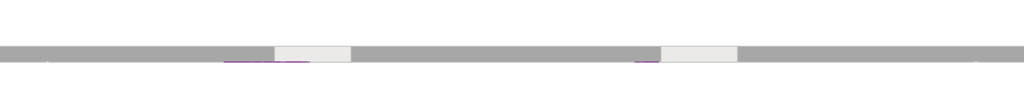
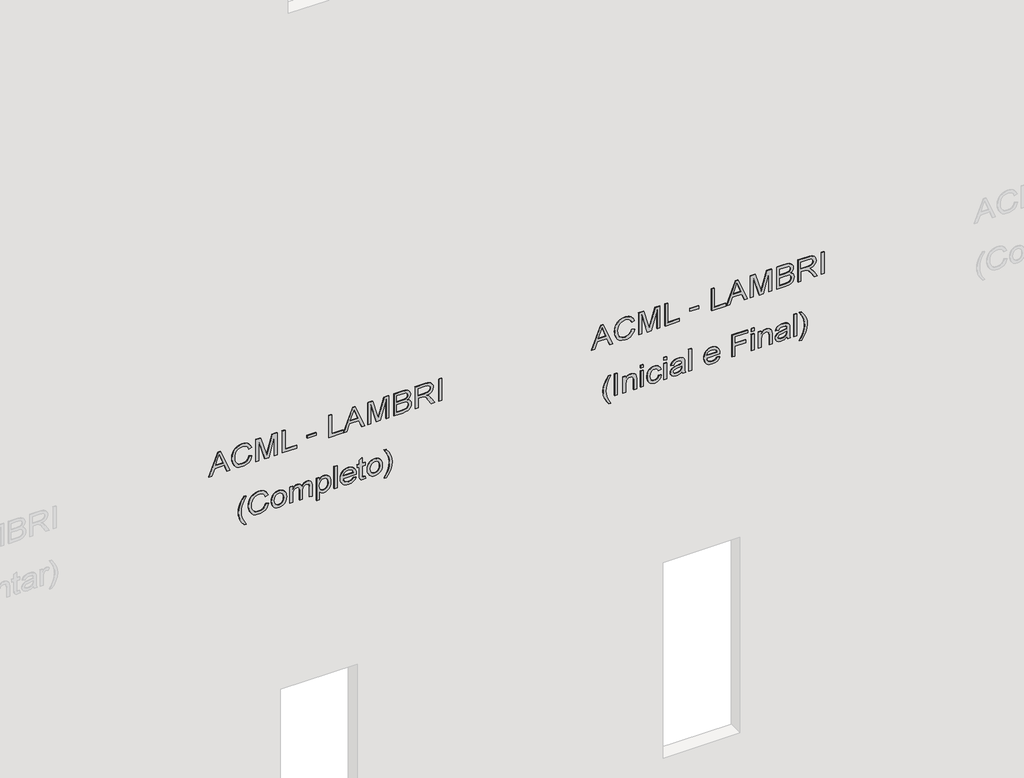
# One storey, part 4 of 11: 2 proxies.
"""IFC4 building model written with IfcOpenShell, lengths in millimetres."""

import ifcopenshell
import ifcopenshell.guid

model = None  # the IFC model being written
_history = None  # IfcOwnerHistory: only IFC2X3 demands one
_inside = {}  # id of a spatial element -> (the spatial element, [elements in it])
_under = {}  # id of a project, library or spatial element -> (it, [spatial elements below it])
_declared = {}  # id of a project -> (the project, [libraries it declares])
_typed = {}  # id of a type object -> (the type object, [elements of that type])
_made_of = {}  # id of a material, layer set ... -> (it, [elements and type objects made of it])


def new_model(schema):
    """Start an empty IFC model of exactly this schema.

    Asked for "IFC4X3", IfcOpenShell would pick the latest addendum, in which some entities
    have other attributes; the version numbers below select the first issue.
    IFC2X3 requires an IfcOwnerHistory on every rooted entity: one is made here for all.
    """
    global model, _history
    if schema == "IFC4X3":
        model = ifcopenshell.file(schema_version=(4, 3, 0, 0))
    else:
        model = ifcopenshell.file(schema=schema)
    _inside.clear()
    _under.clear()
    _declared.clear()
    _typed.clear()
    _made_of.clear()
    _history = None
    if model.schema == "IFC2X3":
        org = make("IfcOrganization", Name="unknown")
        user = make(
            "IfcPersonAndOrganization",
            ThePerson=make("IfcPerson", FamilyName="unknown"),
            TheOrganization=org,
        )
        app = make(
            "IfcApplication",
            ApplicationDeveloper=org,
            Version="unknown",
            ApplicationFullName="unknown",
            ApplicationIdentifier="unknown",
        )
        _history = make(
            "IfcOwnerHistory",
            OwningUser=user,
            OwningApplication=app,
            ChangeAction="ADDED",
            CreationDate=0,
        )
    return model


def make(cls, **values):
    """One entity of the class cls with the attributes given. An attribute that is None is left unset."""
    return model.create_entity(
        cls, **{name: value for name, value in values.items() if value is not None}
    )


def rooted(cls, **values):
    """An entity with a GlobalId (a new one), such as an element, a storey or a relation."""
    return make(cls, GlobalId=ifcopenshell.guid.new(), OwnerHistory=_history, **values)


def si_unit(unit_type, name, prefix=None):
    """IfcSIUnit, for example si_unit("LENGTHUNIT", "METRE", prefix="MILLI")."""
    return make("IfcSIUnit", UnitType=unit_type, Prefix=prefix, Name=name)


def assignment(units):
    """IfcUnitAssignment: the units of a project."""
    return None if units is None else make("IfcUnitAssignment", Units=units)


def point(xyz):
    """IfcCartesianPoint."""
    return None if xyz is None else make("IfcCartesianPoint", Coordinates=xyz)


def direction(xyz):
    """IfcDirection."""
    return None if xyz is None else make("IfcDirection", DirectionRatios=xyz)


def frame(location, z_axis=None, x_axis=None):
    """IfcAxis2Placement3D, a coordinate frame: its origin and axes. An axis left out is left unset."""
    return make(
        "IfcAxis2Placement3D",
        Location=point(location),
        Axis=direction(z_axis),
        RefDirection=direction(x_axis),
    )


def origin():
    """The frame at (0, 0, 0) with its axes left unset."""
    return frame((0.0, 0.0, 0.0))


def place(relative_to, where):
    """IfcLocalPlacement: puts the frame where relative to a parent placement (None: the world)."""
    return make(
        "IfcLocalPlacement", PlacementRelTo=relative_to, RelativePlacement=where
    )


def context(
    kind, dimensions, precision=None, world=None, true_north=None, identifier=None
):
    """IfcGeometricRepresentationContext, for example the 3D "Model" context."""
    return make(
        "IfcGeometricRepresentationContext",
        ContextIdentifier=identifier,
        ContextType=kind,
        CoordinateSpaceDimension=dimensions,
        Precision=precision,
        WorldCoordinateSystem=world,
        TrueNorth=true_north,
    )


def project(units=None, contexts=None):
    """IfcProject with its units and contexts."""
    return rooted(
        "IfcProject",
        Name="project",
        RepresentationContexts=contexts,
        UnitsInContext=assignment(units),
    )


def spatial(cls, under=None, at=None, **own):
    """A site, building, storey or space (cls), placed at a placement, below another one or the project."""
    s = rooted(cls, ObjectPlacement=at, **own)
    if under is not None:
        _under.setdefault(under.id(), (under, []))[1].append(s)
    return s


def polyline(points):
    """IfcPolyline through the points."""
    return make("IfcPolyline", Points=[point(p) for p in points])


def outline(outer, holes=None, kind="AREA"):
    """IfcArbitraryClosedProfileDef: a profile drawn as a closed curve; with holes, ...WithVoids."""
    if holes is None:
        return make("IfcArbitraryClosedProfileDef", ProfileType=kind, OuterCurve=outer)
    return make(
        "IfcArbitraryProfileDefWithVoids",
        ProfileType=kind,
        OuterCurve=outer,
        InnerCurves=holes,
    )


def extrude(swept, where, along, depth):
    """IfcExtrudedAreaSolid: the profile swept, set in the frame where, extruded along a direction by depth."""
    return make(
        "IfcExtrudedAreaSolid",
        SweptArea=swept,
        Position=where,
        ExtrudedDirection=direction(along),
        Depth=depth,
    )


def shape(context_of_items, identifier, shape_type, items):
    """IfcShapeRepresentation: the items that make up one representation, for example the "Body"."""
    return make(
        "IfcShapeRepresentation",
        ContextOfItems=context_of_items,
        RepresentationIdentifier=identifier,
        RepresentationType=shape_type,
        Items=items,
    )


def made_of(thing, what):
    """Note that an element or type object is made of a material, layer set ...; save() writes the relation."""
    if what is not None:
        _made_of.setdefault(what.id(), (what, []))[1].append(thing)
    return thing


def element(
    cls,
    number,
    at=None,
    inside=None,
    cuts=None,
    type_object=None,
    material=None,
    context=None,
    identifier="Body",
    shape_type=None,
    held_by="IfcProductDefinitionShape",
    body=None,
    shapes=None,
    **own,
):
    """One element of the class cls, such as IfcWall. Its Tag is "e" and its number.

    at: its placement. inside: the storey or other place that contains it. cuts: it is an
    opening in that element (IfcRelVoidsElement). A single representation is given by context,
    identifier, shape_type and body (its items); several are given by shapes. held_by: the class
    of the entity that holds the representations. save() writes the other relations.
    """
    e = rooted(cls, Tag="e%d" % number, ObjectPlacement=at, **own)
    if body is not None:
        shapes = [shape(context, identifier, shape_type, body)]
    if shapes is not None:
        e.Representation = make(held_by, Representations=shapes)
    if inside is not None:
        _inside.setdefault(inside.id(), (inside, []))[1].append(e)
    if cuts is not None:
        rooted(
            "IfcRelVoidsElement", RelatingBuildingElement=cuts, RelatedOpeningElement=e
        )
    if type_object is not None:
        _typed.setdefault(type_object.id(), (type_object, []))[1].append(e)
    return made_of(e, material)


def aggregate(whole, parts):
    """IfcRelAggregates: a whole, such as a stair, and the parts it consists of."""
    return rooted("IfcRelAggregates", RelatingObject=whole, RelatedObjects=parts)


def save(model, path):
    """Write the relations noted so far, then the file.

    IfcRelAggregates (storeys below a building ...), IfcRelContainedInSpatialStructure (elements
    in a storey), IfcRelDefinesByType, IfcRelAssociatesMaterial and IfcRelDeclares: one each for
    every whole, place, type object, material and project.
    """
    for whole, parts in _under.values():
        aggregate(whole, parts)
    for where, things in _inside.values():
        rooted(
            "IfcRelContainedInSpatialStructure",
            RelatedElements=things,
            RelatingStructure=where,
        )
    for kind, things in _typed.values():
        rooted("IfcRelDefinesByType", RelatedObjects=things, RelatingType=kind)
    for what, things in _made_of.values():
        rooted("IfcRelAssociatesMaterial", RelatedObjects=things, RelatingMaterial=what)
    for by, libraries in _declared.values():
        rooted("IfcRelDeclares", RelatingContext=by, RelatedDefinitions=libraries)
    model.write(path)


model = new_model("IFC4")

# Units and contexts
model_context = context("Model", 3, world=origin())
ifc_project = project(units=[si_unit("LENGTHUNIT", "METRE", prefix="MILLI")], contexts=[model_context])

# Site, building, storey
site = spatial("IfcSite", under=ifc_project)
building = spatial("IfcBuilding", under=site)
storey = spatial("IfcBuildingStorey", under=building, Name="01 - Marelli - Planta Baixa - Painéis Lambri", Elevation=0.0)

# Proxies
placement = place(None, origin())
element("IfcBuildingElementProxy", 1, Name="300mm Arial", ObjectType="300mm Arial", at=placement, inside=storey, context=model_context, shape_type="SweptSolid", body=[
    extrude(outline(polyline([(5965.9244535, 12333.0775803), (5965.9244535, 12372.8824122), (6060.1022443, 12407.316167), (6060.1022443, 12531.4395521), (5965.9244535, 12565.9468833), (5965.9244535, 12605.7517152), (6267.293384, 12485.4543027), (6267.293384, 12453.3749928), (5965.9244535, 12333.0775803)]), holes=[polyline([(6097.7733606, 12421.14853), (6178.3395176, 12450.652666), (6229.6222677, 12469.4146478), (6171.8647944, 12490.5310743), (6097.7733606, 12517.6807655), (6097.7733606, 12421.14853)])]), frame((0.0, 8778.3159498, 0.0), z_axis=(0.0, 1.0, 0.0), x_axis=(0.0, 0.0, 1.0)), (0.0, 0.0, 1.0), 10.0),
    extrude(outline(polyline([(6073.0516905, 12857.8980347), (6040.7884396, 12845.7119436), (6017.5750857, 12825.9290893), (6003.5587816, 12799.7266942), (5998.8866803, 12768.2819806), (6002.3171799, 12741.3070333), (6012.6086787, 12716.3002547), (6029.8347531, 12695.4413456), (6054.0689796, 12680.9100068), (6084.1617268, 12672.3843415), (6118.9633635, 12669.5424531), (6147.3822477, 12671.9428831), (6174.9550032, 12679.1441732), (6199.3455795, 12692.2683634), (6218.2179258, 12712.4374938), (6230.3028494, 12739.0169679), (6234.3311572, 12771.3721894), (6230.6983225, 12799.4415856), (6219.7998184, 12822.2870575), (6200.9550632, 12840.1293343), (6173.4834752, 12853.1891451), (6182.4597959, 12890.8602614), (6220.278065, 12874.2227982), (6235.6003501, 12862.4206839), (6248.5314022, 12848.2963146), (6258.7999084, 12832.1164046), (6266.1345557, 12814.1476684), (6272.0022735, 12772.8437174), (6267.4681279, 12734.9886601), (6253.8656912, 12700.4445407), (6231.526057, 12671.3174838), (6200.7803193, 12649.7136136), (6162.8332915, 12636.331906), (6118.8897871, 12631.8713368), (6077.2271512, 12635.8168712), (6038.3236302, 12647.6534744), (6005.2326447, 12667.0408556), (5981.0076153, 12693.6387238), (5966.1635768, 12728.339193), (5961.215564, 12772.034377), (5962.8503396, 12794.4567846), (5967.7546665, 12815.0765704), (5975.9285445, 12833.8937345), (5987.3719739, 12850.9082767), (6001.9286046, 12865.7845049), (6019.4420868, 12878.1867267), (6039.9124206, 12888.114942), (6063.3396059, 12895.569151), (6073.0516905, 12857.8980347)])), frame((0.0, 8778.3159498, 0.0), z_axis=(0.0, 1.0, 0.0), x_axis=(0.0, 0.0, 1.0)), (0.0, 0.0, 1.0), 10.0),
    extrude(outline(polyline([(5965.9244535, 12947.3669359), (5965.9244535, 12985.0380522), (6229.6222677, 12985.0380522), (5965.9244535, 13060.7481668), (5965.9244535, 13111.8101877), (6229.6222677, 13187.5203023), (5965.9244535, 13187.5203023), (5965.9244535, 13225.1914186), (6267.293384, 13225.1914186), (6267.293384, 13160.3706111), (6058.5571399, 13099.7436583), (6010.5117514, 13086.2791773), (6054.87832, 13073.8447658), (6267.293384, 13012.1877434), (6267.293384, 12947.3669359), (5965.9244535, 12947.3669359)])), frame((0.0, 8778.3159498, 0.0), z_axis=(0.0, 1.0, 0.0), x_axis=(0.0, 0.0, 1.0)), (0.0, 0.0, 1.0), 10.0),
    extrude(outline(polyline([(5965.9244535, 13291.1158722), (5965.9244535, 13479.4714537), (6003.5955698, 13479.4714537), (6003.5955698, 13328.7869885), (6267.293384, 13328.7869885), (6267.293384, 13291.1158722), (5965.9244535, 13291.1158722)])), frame((0.0, 8778.3159498, 0.0), z_axis=(0.0, 1.0, 0.0), x_axis=(0.0, 0.0, 1.0)), (0.0, 0.0, 1.0), 10.0),
    extrude(outline(polyline([(13733.7514888, 8778.3159498), (13616.0292503, 8778.3159498), (13616.0292503, 8788.3159498), (13733.7514888, 8788.3159498), (13733.7514888, 8778.3159498)])), frame((0.0, 0.0, 6055.3933548), z_axis=(0.0, 0.0, 1.0), x_axis=(1.0, 0.0, 0.0)), (0.0, 0.0, 1.0), 37.6711163),
    extrude(outline(polyline([(5965.9244535, 13898.5626226), (5965.9244535, 14086.9182041), (6003.5955698, 14086.9182041), (6003.5955698, 13936.2337389), (6267.293384, 13936.2337389), (6267.293384, 13898.5626226), (5965.9244535, 13898.5626226)])), frame((0.0, 8778.3159498, 0.0), z_axis=(0.0, 1.0, 0.0), x_axis=(0.0, 0.0, 1.0)), (0.0, 0.0, 1.0), 10.0),
    extrude(outline(polyline([(5965.9244535, 14094.2022676), (5965.9244535, 14134.0070995), (6060.1022443, 14168.4408543), (6060.1022443, 14292.5642394), (5965.9244535, 14327.0715706), (5965.9244535, 14366.8764025), (6267.293384, 14246.5789901), (6267.293384, 14214.4996801), (5965.9244535, 14094.2022676)]), holes=[polyline([(6097.7733606, 14182.2732173), (6178.3395176, 14211.7773533), (6229.6222677, 14230.5393351), (6171.8647944, 14251.6557616), (6097.7733606, 14278.8054528), (6097.7733606, 14182.2732173)])]), frame((0.0, 8778.3159498, 0.0), z_axis=(0.0, 1.0, 0.0), x_axis=(0.0, 0.0, 1.0)), (0.0, 0.0, 1.0), 10.0),
    extrude(outline(polyline([(5965.9244535, 14407.1226927), (5965.9244535, 14444.7938091), (6229.6222677, 14444.7938091), (5965.9244535, 14520.5039237), (5965.9244535, 14571.5659446), (6229.6222677, 14647.2760592), (5965.9244535, 14647.2760592), (5965.9244535, 14684.9471755), (6267.293384, 14684.9471755), (6267.293384, 14620.126368), (6058.5571399, 14559.4994151), (6010.5117514, 14546.0349341), (6054.87832, 14533.6005227), (6267.293384, 14471.9435003), (6267.293384, 14407.1226927), (5965.9244535, 14407.1226927)])), frame((0.0, 8778.3159498, 0.0), z_axis=(0.0, 1.0, 0.0), x_axis=(0.0, 0.0, 1.0)), (0.0, 0.0, 1.0), 10.0),
    extrude(outline(polyline([(5965.9244535, 14750.871629), (5965.9244535, 14864.9886239), (5971.1115897, 14913.2915299), (5977.5311305, 14931.3269447), (5986.4154807, 14946.0698157), (5998.6843452, 14958.108754), (6015.2574291, 14968.0323708), (6034.7459778, 14974.6818379), (6055.7612368, 14976.8983269), (6080.9795475, 14973.6517683), (6102.6294029, 14963.9120924), (6119.5887629, 14948.1391519), (6130.7355874, 14926.7927991), (6142.4802201, 14944.662667), (6157.407032, 14957.3637929), (6174.4675596, 14964.9513591), (6192.613339, 14967.4805478), (6212.3318139, 14964.4731125), (6231.1673721, 14955.4508066), (6247.1794359, 14941.1218028), (6258.4274279, 14922.1942742), (6265.076895, 14897.5001953), (6267.293384, 14865.8715407), (6267.293384, 14750.871629), (5965.9244535, 14750.871629)]), holes=[polyline([(6144.862256, 14788.5427453), (6229.6222677, 14788.5427453), (6229.6222677, 14852.1127541), (6225.6859303, 14900.5260247), (6220.084927, 14913.0156184), (6211.1545915, 14922.2310624), (6199.7134615, 14927.9148392), (6186.5800742, 14929.8094315), (6173.0512139, 14927.7768835), (6162.0423452, 14921.6792394), (6153.6822268, 14911.5716816), (6148.0996175, 14897.5093923), (6144.862256, 14857.3366784), (6144.862256, 14788.5427453)]), polyline([(6003.5955698, 14788.5427453), (6107.1911397, 14788.5427453), (6107.1911397, 14862.1191444), (6105.9311438, 14888.9469389), (6102.1511563, 14908.6562168), (6095.262566, 14922.5713532), (6084.6767616, 14932.0167235), (6071.1387042, 14937.4245888), (6055.3933548, 14939.2272106), (6041.8369032, 14937.6913032), (6030.0094971, 14933.0835813), (6013.2708663, 14917.4118083), (6005.0670978, 14893.756996), (6003.5955698, 14865.7979643), (6003.5955698, 14788.5427453)])]), frame((0.0, 8778.3159498, 0.0), z_axis=(0.0, 1.0, 0.0), x_axis=(0.0, 0.0, 1.0)), (0.0, 0.0, 1.0), 10.0),
    extrude(outline(polyline([(5965.9244535, 15028.6961118), (5965.9244535, 15066.3672281), (6097.7733606, 15066.3672281), (6097.7733606, 15111.8374427), (6096.4489854, 15133.6896332), (6089.2752865, 15151.6054864), (6069.7407526, 15171.5079023), (6028.3908163, 15199.834816), (5965.9244535, 15239.0510366), (5965.9244535, 15282.8289941), (6047.5942565, 15232.5763135), (6086.3690188, 15202.0421079), (6102.4822501, 15180.6313758), (6112.4702463, 15217.7414721), (6120.4854753, 15232.1233588), (6130.5148582, 15243.723138), (6155.1261637, 15259.036226), (6184.8142407, 15264.1405887), (6208.6805851, 15261.059577), (6230.3948199, 15251.8165419), (6247.9060028, 15237.4139618), (6259.1631919, 15218.8543151), (6265.260836, 15193.4612604), (6267.293384, 15158.5584561), (6267.293384, 15028.6961118), (5965.9244535, 15028.6961118)]), holes=[polyline([(6135.4444769, 15066.3672281), (6229.6222677, 15066.3672281), (6229.6222677, 15160.1771369), (6226.366512, 15189.9847755), (6216.599245, 15210.540182), (6201.7919947, 15222.4871498), (6183.4162891, 15226.4694724), (6170.1081579, 15224.3817421), (6157.8484904, 15218.1185511), (6147.7133415, 15207.8362493), (6140.7787658, 15193.6911866), (6136.7780491, 15174.9016137), (6135.4444769, 15150.6857814), (6135.4444769, 15066.3672281)])]), frame((0.0, 8778.3159498, 0.0), z_axis=(0.0, 1.0, 0.0), x_axis=(0.0, 0.0, 1.0)), (0.0, 0.0, 1.0), 10.0),
    extrude(outline(polyline([(15372.4450481, 8778.3159498), (15334.7739318, 8778.3159498), (15334.7739318, 8788.3159498), (15372.4450481, 8788.3159498), (15372.4450481, 8778.3159498)])), frame((0.0, 0.0, 5965.9244535), z_axis=(0.0, 0.0, 1.0), x_axis=(1.0, 0.0, 0.0)), (0.0, 0.0, 1.0), 301.3689304),
    extrude(outline(polyline([(5149.3155348, 12791.9735811), (5149.3155348, 12820.2269184), (5197.5540614, 12791.3849699), (5245.8109821, 12770.7835782), (5294.0862969, 12758.4227432), (5342.3800058, 12754.3024648), (5380.2534572, 12756.6753037), (5417.9429677, 12763.7938203), (5475.7740173, 12784.9838232), (5535.4444769, 12820.2269184), (5535.4444769, 12791.9735811), (5484.934279, 12757.282309), (5434.2033518, 12732.9653091), (5389.4137189, 12720.7148387), (5342.600735, 12716.6313485), (5289.2210575, 12722.0943961), (5237.68079, 12738.483539), (5190.2791949, 12762.7821448), (5149.3155348, 12791.9735811)])), frame((0.0, 8778.3159498, 0.0), z_axis=(0.0, 1.0, 0.0), x_axis=(0.0, 0.0, 1.0)), (0.0, 0.0, 1.0), 10.0),
    extrude(outline(polyline([(5341.2027835, 13074.5069534), (5308.9395325, 13062.3208623), (5285.7261786, 13042.538008), (5271.7098746, 13016.3356129), (5267.0377732, 12984.8908994), (5270.4682728, 12957.9159521), (5280.7597717, 12932.9091735), (5297.9858461, 12912.0502643), (5322.2200725, 12897.5189255), (5352.3128197, 12888.9932603), (5387.1144565, 12886.1513719), (5415.5333406, 12888.5518019), (5443.1060961, 12895.753092), (5467.4966724, 12908.8772821), (5486.3690188, 12929.0464125), (5498.4539423, 12955.6258867), (5502.4822501, 12987.9811082), (5498.8494154, 13016.0505044), (5487.9509113, 13038.8959763), (5469.1061561, 13056.7382531), (5441.6345681, 13069.7980639), (5450.6108888, 13107.4691802), (5488.4291579, 13090.831717), (5503.751443, 13079.0296027), (5516.6824952, 13064.9052333), (5526.9510013, 13048.7253233), (5534.2856486, 13030.7565871), (5540.1533665, 12989.4526361), (5535.6192209, 12951.5975788), (5522.0167841, 12917.0534595), (5499.6771499, 12887.9264025), (5468.9314122, 12866.3225323), (5430.9843844, 12852.9408248), (5387.0408801, 12848.4802556), (5345.3782441, 12852.42579), (5306.4747231, 12864.2623932), (5273.3837376, 12883.6497743), (5249.1587083, 12910.2476426), (5234.3146698, 12944.9481118), (5229.3666569, 12988.6432957), (5231.0014325, 13011.0657033), (5235.9057594, 13031.6854892), (5244.0796375, 13050.5026532), (5255.5230668, 13067.5171955), (5270.0796975, 13082.3934237), (5287.5931797, 13094.7956455), (5308.0635135, 13104.7238608), (5331.4906988, 13112.1780697), (5341.2027835, 13074.5069534)])), frame((0.0, 8778.3159498, 0.0), z_axis=(0.0, 1.0, 0.0), x_axis=(0.0, 0.0, 1.0)), (0.0, 0.0, 1.0), 10.0),
    extrude(outline(polyline([(5344.7344506, 13149.849186), (5318.4124939, 13151.557538), (5295.3646869, 13156.6825941), (5275.5910296, 13165.2243542), (5259.0915221, 13177.1828183), (5246.0868936, 13191.9095944), (5236.7978732, 13208.7562905), (5231.224461, 13227.7229066), (5229.3666569, 13248.8094427), (5232.7419742, 13275.3981139), (5242.8679261, 13299.8346755), (5259.1007192, 13320.408476), (5280.7965599, 13335.4088644), (5309.767267, 13344.5691261), (5347.8246594, 13347.6225466), (5372.7049786, 13345.8958005), (5394.7388108, 13340.7155622), (5413.9261561, 13332.0818316), (5430.2670145, 13319.9946088), (5443.3199275, 13305.1850592), (5452.6434368, 13288.3843484), (5458.2375424, 13269.5924762), (5460.1022443, 13248.8094427), (5458.5709355, 13229.9830816), (5453.9770091, 13212.6466426), (5446.3204651, 13196.8001257), (5435.6013034, 13182.4435308), (5418.830483, 13168.183505), (5398.095734, 13157.9977722), (5373.3970566, 13151.8863326), (5344.7344506, 13149.849186)]), holes=[polyline([(5344.808027, 13187.5203023), (5378.8830968, 13191.879704), (5403.1173232, 13204.9579089), (5417.6026768, 13224.6395956), (5422.431128, 13248.8094427), (5417.5842827, 13272.7309695), (5403.0437468, 13292.4034592), (5379.0854319, 13305.5644375), (5345.9852494, 13309.9514303), (5311.1468245, 13305.5920287), (5286.535519, 13292.5138238), (5271.9122097, 13272.8689252), (5267.0377732, 13248.8094427), (5271.8846185, 13224.6395956), (5286.4251544, 13204.9579089), (5310.7145631, 13191.879704), (5344.808027, 13187.5203023)])]), frame((0.0, 8778.3159498, 0.0), z_axis=(0.0, 1.0, 0.0), x_axis=(0.0, 0.0, 1.0)), (0.0, 0.0, 1.0), 10.0),
    extrude(outline(polyline([(5234.0755465, 13390.0025525), (5234.0755465, 13427.6736688), (5345.6909438, 13427.6736688), (5371.6082304, 13429.1084086), (5390.6461236, 13433.4126279), (5404.368122, 13440.9174206), (5414.3377241, 13451.9538805), (5420.407777, 13465.326391), (5422.431128, 13479.8393357), (5419.3961015, 13496.9182573), (5410.2910222, 13508.4237667), (5395.0974958, 13514.9628692), (5373.7971282, 13517.14257), (5234.0755465, 13517.14257), (5234.0755465, 13554.8136863), (5359.008272, 13554.8136863), (5387.7214617, 13558.5017033), (5407.3479662, 13569.5657543), (5418.6603375, 13586.2032176), (5422.431128, 13606.6114712), (5420.9596, 13618.1721629), (5416.5450161, 13628.132568), (5409.7300021, 13635.876484), (5401.0571841, 13640.7877086), (5369.6032735, 13644.2825875), (5234.0755465, 13644.2825875), (5234.0755465, 13681.9537039), (5385.7900813, 13681.9537039), (5418.7615051, 13677.6402875), (5441.8920855, 13664.7000383), (5455.5497046, 13643.7583557), (5460.1022443, 13615.4406391), (5457.366122, 13595.9153022), (5449.1577549, 13578.3213458), (5435.4771432, 13562.6587699), (5416.3242869, 13548.9275744), (5434.7643719, 13540.7238059), (5448.5875379, 13528.1790299), (5457.2235677, 13511.3852168), (5460.1022443, 13490.4343372), (5457.27875, 13470.8814091), (5448.808267, 13453.5725612), (5435.702471, 13439.0044342), (5418.9730372, 13427.6736688), (5455.3933548, 13427.6736688), (5455.3933548, 13390.0025525), (5234.0755465, 13390.0025525)])), frame((0.0, 8778.3159498, 0.0), z_axis=(0.0, 1.0, 0.0), x_axis=(0.0, 0.0, 1.0)), (0.0, 0.0, 1.0), 10.0),
    extrude(outline(polyline([(5149.3155348, 13738.4603783), (5149.3155348, 13776.1314946), (5263.5061061, 13776.1314946), (5249.9956398, 13786.7724813), (5239.0419534, 13800.0070361), (5231.785481, 13815.467277), (5229.3666569, 13832.7853219), (5232.9810975, 13857.2034893), (5243.8244193, 13880.4260403), (5261.4459669, 13900.3652444), (5285.3950848, 13914.9333714), (5314.2094421, 13923.8453127), (5346.4267078, 13926.8159598), (5376.7217901, 13924.1856036), (5404.4784866, 13916.2945348), (5427.9861461, 13903.234724), (5445.5341173, 13885.0981416), (5456.4602125, 13862.8228868), (5460.1022443, 13837.3470586), (5457.4994792, 13818.2171949), (5449.6911838, 13802.1775399), (5436.6773583, 13788.4187533), (5418.4580024, 13776.1314946), (5455.3933548, 13776.1314946), (5455.3933548, 13738.4603783), (5149.3155348, 13738.4603783)]), holes=[polyline([(5342.968617, 13776.1314946), (5377.1356573, 13780.4816992), (5402.0872537, 13793.532313), (5417.3451594, 13812.2299154), (5422.431128, 13833.5210859), (5417.6486621, 13854.7294829), (5403.3012642, 13872.7373066), (5379.3521464, 13885.0429593), (5345.7645202, 13889.1448435), (5310.7237602, 13884.9417917), (5286.2412134, 13872.3326364), (5271.8386333, 13853.837369), (5267.0377732, 13831.9759815), (5271.6730864, 13810.4640818), (5285.5790258, 13792.428667), (5309.1970499, 13780.2057877), (5342.968617, 13776.1314946)])]), frame((0.0, 8778.3159498, 0.0), z_axis=(0.0, 1.0, 0.0), x_axis=(0.0, 0.0, 1.0)), (0.0, 0.0, 1.0), 10.0),
    extrude(outline(polyline([(14006.867082, 8778.3159498), (13969.1959657, 8778.3159498), (13969.1959657, 8788.3159498), (14006.867082, 8788.3159498), (14006.867082, 8778.3159498)])), frame((0.0, 0.0, 5234.0755465), z_axis=(0.0, 0.0, 1.0), x_axis=(1.0, 0.0, 0.0)), (0.0, 0.0, 1.0), 301.3689304),
    extrude(outline(polyline([(5300.0, 14218.3256528), (5285.1191733, 14207.7674396), (5274.9104479, 14194.0454411), (5269.0059419, 14177.1596576), (5267.0377732, 14157.1100888), (5271.2868103, 14130.4478412), (5284.0339214, 14108.5864537), (5304.7640718, 14093.4389125), (5332.9622268, 14086.9182041), (5332.9622268, 14256.2174983), (5343.1157698, 14256.4382275), (5369.3687487, 14254.6517006), (5392.5039277, 14249.2921198), (5412.5213067, 14240.3594851), (5429.4208859, 14227.8537965), (5442.8439802, 14212.5338107), (5452.4319047, 14195.1582842), (5458.1846594, 14175.727217), (5460.1022443, 14154.2406093), (5458.1800609, 14132.0389309), (5452.4135106, 14112.0077562), (5442.8025935, 14094.1470853), (5429.3473095, 14078.4569183), (5412.4109422, 14065.6776174), (5392.3567749, 14056.5495454), (5369.1848077, 14051.0727022), (5342.8950406, 14049.2470878), (5317.467497, 14051.0543081), (5295.0427901, 14056.475969), (5275.62092, 14065.5120705), (5259.2018867, 14078.1626127), (5246.1489737, 14093.8941665), (5236.8254644, 14112.1733031), (5231.2313588, 14133.0000226), (5229.3666569, 14156.3743248), (5233.6892704, 14192.0312872), (5246.6571107, 14220.7168858), (5267.4608375, 14241.952874), (5295.2911105, 14255.2610051), (5300.0, 14218.3256528)]), holes=[polyline([(5370.6333431, 14086.9182041), (5391.8693312, 14093.1078187), (5408.3412476, 14107.7035369), (5418.9086579, 14128.7004017), (5422.431128, 14154.0934565), (5418.0165441, 14181.7213943), (5404.7727922, 14203.6839494), (5390.535759, 14213.6719456), (5370.6333431, 14218.7671112), (5370.6333431, 14086.9182041)])]), frame((0.0, 8778.3159498, 0.0), z_axis=(0.0, 1.0, 0.0), x_axis=(0.0, 0.0, 1.0)), (0.0, 0.0, 1.0), 10.0),
    extrude(outline(polyline([(5265.4926689, 14374.160466), (5267.0377732, 14357.752929), (5269.576159, 14344.9138474), (5276.4555523, 14338.4759124), (5295.8797217, 14336.4893497), (5417.7222385, 14336.4893497), (5417.7222385, 14374.160466), (5455.3933548, 14374.160466), (5455.3933548, 14336.4893497), (5531.3241986, 14336.4893497), (5509.1777025, 14298.8182334), (5455.3933548, 14298.8182334), (5455.3933548, 14270.5648961), (5417.7222385, 14270.5648961), (5417.7222385, 14298.8182334), (5294.7760757, 14298.8182334), (5267.7919313, 14299.9586676), (5252.0281878, 14303.3799701), (5242.849532, 14309.5971758), (5235.6206508, 14319.1253195), (5230.9301554, 14332.6081946), (5229.3666569, 14350.6895947), (5232.9719005, 14378.8693555), (5265.4926689, 14374.160466)])), frame((0.0, 8778.3159498, 0.0), z_axis=(0.0, 1.0, 0.0), x_axis=(0.0, 0.0, 1.0)), (0.0, 0.0, 1.0), 10.0),
    extrude(outline(polyline([(5344.7344506, 14402.4138032), (5318.4124939, 14404.1221552), (5295.3646869, 14409.2472113), (5275.5910296, 14417.7889713), (5259.0915221, 14429.7474354), (5246.0868936, 14444.4742116), (5236.7978732, 14461.3209077), (5231.224461, 14480.2875238), (5229.3666569, 14501.3740599), (5232.7419742, 14527.9627311), (5242.8679261, 14552.3992926), (5259.1007192, 14572.9730932), (5280.7965599, 14587.9734816), (5309.767267, 14597.1337433), (5347.8246594, 14600.1871638), (5372.7049786, 14598.4604177), (5394.7388108, 14593.2801794), (5413.9261561, 14584.6464488), (5430.2670145, 14572.559226), (5443.3199275, 14557.7496764), (5452.6434368, 14540.9489655), (5458.2375424, 14522.1570934), (5460.1022443, 14501.3740599), (5458.5709355, 14482.5476988), (5453.9770091, 14465.2112598), (5446.3204651, 14449.3647428), (5435.6013034, 14435.008148), (5418.830483, 14420.7481221), (5398.095734, 14410.5623894), (5373.3970566, 14404.4509498), (5344.7344506, 14402.4138032)]), holes=[polyline([(5344.808027, 14440.0849195), (5378.8830968, 14444.4443212), (5403.1173232, 14457.5225261), (5417.6026768, 14477.2042128), (5422.431128, 14501.3740599), (5417.5842827, 14525.2955866), (5403.0437468, 14544.9680763), (5379.0854319, 14558.1290547), (5345.9852494, 14562.5160475), (5311.1468245, 14558.1566459), (5286.535519, 14545.0784409), (5271.9122097, 14525.4335424), (5267.0377732, 14501.3740599), (5271.8846185, 14477.2042128), (5286.4251544, 14457.5225261), (5310.7145631, 14444.4443212), (5344.808027, 14440.0849195)])]), frame((0.0, 8778.3159498, 0.0), z_axis=(0.0, 1.0, 0.0), x_axis=(0.0, 0.0, 1.0)), (0.0, 0.0, 1.0), 10.0),
    extrude(outline(polyline([(5149.3155348, 14651.9849487), (5190.2791949, 14681.0384293), (5237.68079, 14705.3646262), (5289.2210575, 14721.8365426), (5342.600735, 14727.3271813), (5389.4137189, 14723.2436912), (5434.2033518, 14710.9932208), (5484.934279, 14686.6762209), (5535.4444769, 14651.9849487), (5535.4444769, 14623.7316115), (5475.1854061, 14659.1954358), (5446.8400984, 14671.1699948), (5417.2807801, 14680.1647096), (5379.9775458, 14687.2832262), (5342.3800058, 14689.656065), (5294.0862969, 14685.5357867), (5245.8109821, 14673.1749517), (5197.5540614, 14652.5735599), (5149.3155348, 14623.7316115), (5149.3155348, 14651.9849487)])), frame((0.0, 8778.3159498, 0.0), z_axis=(0.0, 1.0, 0.0), x_axis=(0.0, 0.0, 1.0)), (0.0, 0.0, 1.0), 10.0),
])
element("IfcBuildingElementProxy", 2, Name="300mm Arial", ObjectType="300mm Arial", at=placement, inside=storey, context=model_context, shape_type="SweptSolid", body=[
    extrude(outline(polyline([(5965.9244535, 17333.0775803), (5965.9244535, 17372.8824122), (6060.1022443, 17407.316167), (6060.1022443, 17531.4395521), (5965.9244535, 17565.9468833), (5965.9244535, 17605.7517152), (6267.293384, 17485.4543027), (6267.293384, 17453.3749928), (5965.9244535, 17333.0775803)]), holes=[polyline([(6097.7733606, 17421.14853), (6178.3395176, 17450.652666), (6229.6222677, 17469.4146478), (6171.8647944, 17490.5310743), (6097.7733606, 17517.6807655), (6097.7733606, 17421.14853)])]), frame((0.0, 8778.3159498, 0.0), z_axis=(0.0, 1.0, 0.0), x_axis=(0.0, 0.0, 1.0)), (0.0, 0.0, 1.0), 10.0),
    extrude(outline(polyline([(6073.0516905, 17857.8980347), (6040.7884396, 17845.7119436), (6017.5750857, 17825.9290893), (6003.5587816, 17799.7266942), (5998.8866803, 17768.2819806), (6002.3171799, 17741.3070333), (6012.6086787, 17716.3002547), (6029.8347531, 17695.4413456), (6054.0689796, 17680.9100068), (6084.1617268, 17672.3843415), (6118.9633635, 17669.5424531), (6147.3822477, 17671.9428831), (6174.9550032, 17679.1441732), (6199.3455795, 17692.2683634), (6218.2179258, 17712.4374938), (6230.3028494, 17739.0169679), (6234.3311572, 17771.3721894), (6230.6983225, 17799.4415856), (6219.7998184, 17822.2870575), (6200.9550632, 17840.1293343), (6173.4834752, 17853.1891451), (6182.4597959, 17890.8602614), (6220.278065, 17874.2227982), (6235.6003501, 17862.4206839), (6248.5314022, 17848.2963146), (6258.7999084, 17832.1164046), (6266.1345557, 17814.1476684), (6272.0022735, 17772.8437174), (6267.4681279, 17734.9886601), (6253.8656912, 17700.4445407), (6231.526057, 17671.3174838), (6200.7803193, 17649.7136136), (6162.8332915, 17636.331906), (6118.8897871, 17631.8713368), (6077.2271512, 17635.8168712), (6038.3236302, 17647.6534744), (6005.2326447, 17667.0408556), (5981.0076153, 17693.6387238), (5966.1635768, 17728.339193), (5961.215564, 17772.034377), (5962.8503396, 17794.4567846), (5967.7546665, 17815.0765704), (5975.9285445, 17833.8937345), (5987.3719739, 17850.9082767), (6001.9286046, 17865.7845049), (6019.4420868, 17878.1867267), (6039.9124206, 17888.114942), (6063.3396059, 17895.569151), (6073.0516905, 17857.8980347)])), frame((0.0, 8778.3159498, 0.0), z_axis=(0.0, 1.0, 0.0), x_axis=(0.0, 0.0, 1.0)), (0.0, 0.0, 1.0), 10.0),
    extrude(outline(polyline([(5965.9244535, 17947.3669359), (5965.9244535, 17985.0380522), (6229.6222677, 17985.0380522), (5965.9244535, 18060.7481668), (5965.9244535, 18111.8101877), (6229.6222677, 18187.5203023), (5965.9244535, 18187.5203023), (5965.9244535, 18225.1914186), (6267.293384, 18225.1914186), (6267.293384, 18160.3706111), (6058.5571399, 18099.7436583), (6010.5117514, 18086.2791773), (6054.87832, 18073.8447658), (6267.293384, 18012.1877434), (6267.293384, 17947.3669359), (5965.9244535, 17947.3669359)])), frame((0.0, 8778.3159498, 0.0), z_axis=(0.0, 1.0, 0.0), x_axis=(0.0, 0.0, 1.0)), (0.0, 0.0, 1.0), 10.0),
    extrude(outline(polyline([(5965.9244535, 18291.1158722), (5965.9244535, 18479.4714537), (6003.5955698, 18479.4714537), (6003.5955698, 18328.7869885), (6267.293384, 18328.7869885), (6267.293384, 18291.1158722), (5965.9244535, 18291.1158722)])), frame((0.0, 8778.3159498, 0.0), z_axis=(0.0, 1.0, 0.0), x_axis=(0.0, 0.0, 1.0)), (0.0, 0.0, 1.0), 10.0),
    extrude(outline(polyline([(18733.7514888, 8778.3159498), (18616.0292503, 8778.3159498), (18616.0292503, 8788.3159498), (18733.7514888, 8788.3159498), (18733.7514888, 8778.3159498)])), frame((0.0, 0.0, 6055.3933548), z_axis=(0.0, 0.0, 1.0), x_axis=(1.0, 0.0, 0.0)), (0.0, 0.0, 1.0), 37.6711163),
    extrude(outline(polyline([(5965.9244535, 18898.5626226), (5965.9244535, 19086.9182041), (6003.5955698, 19086.9182041), (6003.5955698, 18936.2337389), (6267.293384, 18936.2337389), (6267.293384, 18898.5626226), (5965.9244535, 18898.5626226)])), frame((0.0, 8778.3159498, 0.0), z_axis=(0.0, 1.0, 0.0), x_axis=(0.0, 0.0, 1.0)), (0.0, 0.0, 1.0), 10.0),
    extrude(outline(polyline([(5965.9244535, 19094.2022676), (5965.9244535, 19134.0070995), (6060.1022443, 19168.4408543), (6060.1022443, 19292.5642394), (5965.9244535, 19327.0715706), (5965.9244535, 19366.8764025), (6267.293384, 19246.5789901), (6267.293384, 19214.4996801), (5965.9244535, 19094.2022676)]), holes=[polyline([(6097.7733606, 19182.2732173), (6178.3395176, 19211.7773533), (6229.6222677, 19230.5393351), (6171.8647944, 19251.6557616), (6097.7733606, 19278.8054528), (6097.7733606, 19182.2732173)])]), frame((0.0, 8778.3159498, 0.0), z_axis=(0.0, 1.0, 0.0), x_axis=(0.0, 0.0, 1.0)), (0.0, 0.0, 1.0), 10.0),
    extrude(outline(polyline([(5965.9244535, 19407.1226927), (5965.9244535, 19444.7938091), (6229.6222677, 19444.7938091), (5965.9244535, 19520.5039237), (5965.9244535, 19571.5659446), (6229.6222677, 19647.2760592), (5965.9244535, 19647.2760592), (5965.9244535, 19684.9471755), (6267.293384, 19684.9471755), (6267.293384, 19620.126368), (6058.5571399, 19559.4994151), (6010.5117514, 19546.0349341), (6054.87832, 19533.6005227), (6267.293384, 19471.9435003), (6267.293384, 19407.1226927), (5965.9244535, 19407.1226927)])), frame((0.0, 8778.3159498, 0.0), z_axis=(0.0, 1.0, 0.0), x_axis=(0.0, 0.0, 1.0)), (0.0, 0.0, 1.0), 10.0),
    extrude(outline(polyline([(5965.9244535, 19750.871629), (5965.9244535, 19864.9886239), (5971.1115897, 19913.2915299), (5977.5311305, 19931.3269447), (5986.4154807, 19946.0698157), (5998.6843452, 19958.108754), (6015.2574291, 19968.0323708), (6034.7459778, 19974.6818379), (6055.7612368, 19976.8983269), (6080.9795475, 19973.6517683), (6102.6294029, 19963.9120924), (6119.5887629, 19948.1391519), (6130.7355874, 19926.7927991), (6142.4802201, 19944.662667), (6157.407032, 19957.3637929), (6174.4675596, 19964.9513591), (6192.613339, 19967.4805478), (6212.3318139, 19964.4731125), (6231.1673721, 19955.4508066), (6247.1794359, 19941.1218028), (6258.4274279, 19922.1942742), (6265.076895, 19897.5001953), (6267.293384, 19865.8715407), (6267.293384, 19750.871629), (5965.9244535, 19750.871629)]), holes=[polyline([(6144.862256, 19788.5427453), (6229.6222677, 19788.5427453), (6229.6222677, 19852.1127541), (6225.6859303, 19900.5260247), (6220.084927, 19913.0156184), (6211.1545915, 19922.2310624), (6199.7134615, 19927.9148392), (6186.5800742, 19929.8094315), (6173.0512139, 19927.7768835), (6162.0423452, 19921.6792394), (6153.6822268, 19911.5716816), (6148.0996175, 19897.5093923), (6144.862256, 19857.3366784), (6144.862256, 19788.5427453)]), polyline([(6003.5955698, 19788.5427453), (6107.1911397, 19788.5427453), (6107.1911397, 19862.1191444), (6105.9311438, 19888.9469389), (6102.1511563, 19908.6562168), (6095.262566, 19922.5713532), (6084.6767616, 19932.0167235), (6071.1387042, 19937.4245888), (6055.3933548, 19939.2272106), (6041.8369032, 19937.6913032), (6030.0094971, 19933.0835813), (6013.2708663, 19917.4118083), (6005.0670978, 19893.756996), (6003.5955698, 19865.7979643), (6003.5955698, 19788.5427453)])]), frame((0.0, 8778.3159498, 0.0), z_axis=(0.0, 1.0, 0.0), x_axis=(0.0, 0.0, 1.0)), (0.0, 0.0, 1.0), 10.0),
    extrude(outline(polyline([(5965.9244535, 20028.6961118), (5965.9244535, 20066.3672281), (6097.7733606, 20066.3672281), (6097.7733606, 20111.8374427), (6096.4489854, 20133.6896332), (6089.2752865, 20151.6054864), (6069.7407526, 20171.5079023), (6028.3908163, 20199.834816), (5965.9244535, 20239.0510366), (5965.9244535, 20282.8289941), (6047.5942565, 20232.5763135), (6086.3690188, 20202.0421079), (6102.4822501, 20180.6313758), (6112.4702463, 20217.7414721), (6120.4854753, 20232.1233588), (6130.5148582, 20243.723138), (6155.1261637, 20259.036226), (6184.8142407, 20264.1405887), (6208.6805851, 20261.059577), (6230.3948199, 20251.8165419), (6247.9060028, 20237.4139618), (6259.1631919, 20218.8543151), (6265.260836, 20193.4612604), (6267.293384, 20158.5584561), (6267.293384, 20028.6961118), (5965.9244535, 20028.6961118)]), holes=[polyline([(6135.4444769, 20066.3672281), (6229.6222677, 20066.3672281), (6229.6222677, 20160.1771369), (6226.366512, 20189.9847755), (6216.599245, 20210.540182), (6201.7919947, 20222.4871498), (6183.4162891, 20226.4694724), (6170.1081579, 20224.3817421), (6157.8484904, 20218.1185511), (6147.7133415, 20207.8362493), (6140.7787658, 20193.6911866), (6136.7780491, 20174.9016137), (6135.4444769, 20150.6857814), (6135.4444769, 20066.3672281)])]), frame((0.0, 8778.3159498, 0.0), z_axis=(0.0, 1.0, 0.0), x_axis=(0.0, 0.0, 1.0)), (0.0, 0.0, 1.0), 10.0),
    extrude(outline(polyline([(20372.4450481, 8778.3159498), (20334.7739318, 8778.3159498), (20334.7739318, 8788.3159498), (20372.4450481, 8788.3159498), (20372.4450481, 8778.3159498)])), frame((0.0, 0.0, 5965.9244535), z_axis=(0.0, 0.0, 1.0), x_axis=(1.0, 0.0, 0.0)), (0.0, 0.0, 1.0), 301.3689304),
    extrude(outline(polyline([(5149.3155348, 17556.5291042), (5149.3155348, 17584.7824414), (5197.5540614, 17555.940493), (5245.8109821, 17535.3391013), (5294.0862969, 17522.9782662), (5342.3800058, 17518.8579879), (5380.2534572, 17521.2308268), (5417.9429677, 17528.3493434), (5475.7740173, 17549.5393463), (5535.4444769, 17584.7824414), (5535.4444769, 17556.5291042), (5484.934279, 17521.8378321), (5434.2033518, 17497.5208322), (5389.4137189, 17485.2703617), (5342.600735, 17481.1868716), (5289.2210575, 17486.6499192), (5237.68079, 17503.0390621), (5190.2791949, 17527.3376679), (5149.3155348, 17556.5291042)])), frame((0.0, 8778.3159498, 0.0), z_axis=(0.0, 1.0, 0.0), x_axis=(0.0, 0.0, 1.0)), (0.0, 0.0, 1.0), 10.0),
    extrude(outline(polyline([(17669.5424531, 8778.3159498), (17631.8713368, 8778.3159498), (17631.8713368, 8788.3159498), (17669.5424531, 8788.3159498), (17669.5424531, 8778.3159498)])), frame((0.0, 0.0, 5234.0755465), z_axis=(0.0, 0.0, 1.0), x_axis=(1.0, 0.0, 0.0)), (0.0, 0.0, 1.0), 301.3689304),
    extrude(outline(polyline([(5234.0755465, 17740.1757962), (5234.0755465, 17777.8469125), (5351.5034793, 17777.8469125), (5386.2131456, 17782.1419348), (5398.5877762, 17787.5107127), (5407.6422718, 17795.0270017), (5418.7339139, 17813.8349687), (5422.431128, 17835.8986913), (5420.7848561, 17849.7954337), (5415.8460403, 17861.7607956), (5408.1481095, 17871.0958012), (5398.2244927, 17877.1014748), (5364.8943839, 17881.4424823), (5234.0755465, 17881.4424823), (5234.0755465, 17919.1135987), (5369.9711555, 17919.1135987), (5406.391473, 17917.1270359), (5434.0929872, 17905.8330586), (5444.6328064, 17895.7346979), (5452.9285454, 17881.5528469), (5458.3088196, 17864.5475017), (5460.1022443, 17845.978658), (5457.8765582, 17825.0001872), (5451.1995, 17806.6520727), (5440.0710697, 17790.9343145), (5424.4912672, 17777.8469125), (5455.3933548, 17777.8469125), (5455.3933548, 17740.1757962), (5234.0755465, 17740.1757962)])), frame((0.0, 8778.3159498, 0.0), z_axis=(0.0, 1.0, 0.0), x_axis=(0.0, 0.0, 1.0)), (0.0, 0.0, 1.0), 10.0),
    extrude(outline(polyline([(18008.5824999, 8778.3159498), (17970.9113836, 8778.3159498), (17970.9113836, 8788.3159498), (18008.5824999, 8788.3159498), (18008.5824999, 8778.3159498)])), frame((0.0, 0.0, 5497.7733606), z_axis=(0.0, 0.0, 1.0), x_axis=(1.0, 0.0, 0.0)), (0.0, 0.0, 1.0), 37.6711163),
    extrude(outline(polyline([(18008.5824999, 8778.3159498), (17970.9113836, 8778.3159498), (17970.9113836, 8788.3159498), (18008.5824999, 8788.3159498), (18008.5824999, 8778.3159498)])), frame((0.0, 0.0, 5234.0755465), z_axis=(0.0, 0.0, 1.0), x_axis=(1.0, 0.0, 0.0)), (0.0, 0.0, 1.0), 221.3178083),
    extrude(outline(polyline([(5314.1266686, 18206.3558605), (5293.2493654, 18199.9271226), (5278.5892679, 18188.2928545), (5269.9256469, 18172.2991848), (5267.0377732, 18152.792242), (5271.6638893, 18128.7603507), (5285.5422376, 18109.7868368), (5309.6477053, 18097.4535929), (5344.9551798, 18093.3425116), (5379.7936048, 18097.5455634), (5403.816299, 18110.1547188), (5417.7774208, 18129.4777205), (5422.431128, 18153.8223116), (5420.0674862, 18170.312622), (5412.9765607, 18184.1725762), (5401.1951398, 18194.8135629), (5384.7600117, 18201.646971), (5389.4689012, 18239.3180873), (5419.4512838, 18229.0633766), (5441.7081445, 18210.8072326), (5455.5037194, 18185.3589956), (5460.1022443, 18153.528006), (5456.7545181, 18126.8841525), (5446.7113397, 18102.2820441), (5429.9635118, 18081.7174405), (5406.5018376, 18067.1861017), (5377.448357, 18058.5500719), (5343.9251102, 18055.6713953), (5317.8675687, 18057.3567547), (5295.024396, 18062.4128328), (5275.3955923, 18070.8396298), (5258.9811575, 18082.6371455), (5246.0248135, 18097.2121703), (5236.7702821, 18113.9714945), (5231.2175632, 18132.9151179), (5229.3666569, 18154.0430408), (5234.6733547, 18186.6741737), (5250.593448, 18213.7870768), (5275.9129264, 18233.5239458), (5309.4177791, 18244.0269768), (5314.1266686, 18206.3558605)])), frame((0.0, 8778.3159498, 0.0), z_axis=(0.0, 1.0, 0.0), x_axis=(0.0, 0.0, 1.0)), (0.0, 0.0, 1.0), 10.0),
    extrude(outline(polyline([(18314.6603199, 8778.3159498), (18276.9892036, 8778.3159498), (18276.9892036, 8788.3159498), (18314.6603199, 8788.3159498), (18314.6603199, 8778.3159498)])), frame((0.0, 0.0, 5497.7733606), z_axis=(0.0, 0.0, 1.0), x_axis=(1.0, 0.0, 0.0)), (0.0, 0.0, 1.0), 37.6711163),
    extrude(outline(polyline([(18314.6603199, 8778.3159498), (18276.9892036, 8778.3159498), (18276.9892036, 8788.3159498), (18314.6603199, 8788.3159498), (18314.6603199, 8778.3159498)])), frame((0.0, 0.0, 5234.0755465), z_axis=(0.0, 0.0, 1.0), x_axis=(1.0, 0.0, 0.0)), (0.0, 0.0, 1.0), 221.3178083),
    extrude(outline(polyline([(5262.3288837, 18512.4336805), (5234.0755465, 18521.8514596), (5234.0755465, 18559.5225759), (5265.7501862, 18552.0177832), (5331.1963932, 18550.1047968), (5378.0645594, 18550.1047968), (5411.0267861, 18548.2653868), (5425.1442577, 18543.7220442), (5436.5945848, 18536.7138922), (5445.856014, 18526.1464818), (5453.406792, 18510.9253643), (5458.4283812, 18490.7378398), (5460.1022443, 18465.2712087), (5458.207652, 18438.7193257), (5452.5238752, 18415.5703511), (5443.3452194, 18396.6428225), (5430.9659903, 18382.7552772), (5414.7791825, 18372.9972073), (5394.1777908, 18366.4581048), (5389.4689012, 18404.1292211), (5405.1314772, 18411.6156197), (5415.1838527, 18422.3025917), (5420.6193092, 18437.9743647), (5422.431128, 18460.4151664), (5419.7088012, 18484.6585898), (5411.5418209, 18502.0594082), (5400.5421493, 18509.8401124), (5383.7299421, 18512.4336805), (5375.3422326, 18512.2129513), (5368.3524747, 18485.3943538), (5362.3927864, 18446.8771089), (5356.7274037, 18414.2827642), (5344.3665686, 18387.9056251), (5334.8752131, 18377.3014266), (5322.7351073, 18368.9597024), (5308.5532564, 18363.551837), (5292.9366657, 18361.7492153), (5267.6079903, 18366.5224841), (5247.2457219, 18380.8422908), (5233.8364232, 18404.0648417), (5229.3666569, 18435.5463435), (5231.224461, 18456.4144497), (5236.7978732, 18475.9029984), (5246.896234, 18494.4350539), (5262.3288837, 18512.4336805)]), holes=[polyline([(5337.6711163, 18512.4336805), (5327.0025384, 18512.2129513), (5310.0799667, 18510.7230292), (5297.8662844, 18506.253263), (5286.0112871, 18496.1732963), (5276.0508821, 18481.6787457), (5269.2910505, 18463.7996807), (5267.0377732, 18443.566171), (5269.0795183, 18424.4822925), (5275.2047535, 18410.6407324), (5284.3834093, 18402.2254318), (5295.5854161, 18399.4203316), (5310.0799667, 18404.5706795), (5320.0127805, 18419.2491711), (5326.1196217, 18451.6595749), (5337.6711163, 18512.4336805)])]), frame((0.0, 8778.3159498, 0.0), z_axis=(0.0, 1.0, 0.0), x_axis=(0.0, 0.0, 1.0)), (0.0, 0.0, 1.0), 10.0),
    extrude(outline(polyline([(18639.573698, 8778.3159498), (18601.9025817, 8778.3159498), (18601.9025817, 8788.3159498), (18639.573698, 8788.3159498), (18639.573698, 8778.3159498)])), frame((0.0, 0.0, 5234.0755465), z_axis=(0.0, 0.0, 1.0), x_axis=(1.0, 0.0, 0.0)), (0.0, 0.0, 1.0), 301.3689304),
    extrude(outline(polyline([(5300.0, 18968.7545073), (5285.1191733, 18958.196294), (5274.9104479, 18944.4742956), (5269.0059419, 18927.588512), (5267.0377732, 18907.5389433), (5271.2868103, 18880.8766957), (5284.0339214, 18859.0153081), (5304.7640718, 18843.867767), (5332.9622268, 18837.3470586), (5332.9622268, 19006.6463528), (5343.1157698, 19006.867082), (5369.3687487, 19005.0805551), (5392.5039277, 18999.7209742), (5412.5213067, 18990.7883395), (5429.4208859, 18978.282651), (5442.8439802, 18962.9626651), (5452.4319047, 18945.5871386), (5458.1846594, 18926.1560715), (5460.1022443, 18904.6694637), (5458.1800609, 18882.4677853), (5452.4135106, 18862.4366107), (5442.8025935, 18844.5759398), (5429.3473095, 18828.8857727), (5412.4109422, 18816.1064719), (5392.3567749, 18806.9783999), (5369.1848077, 18801.5015567), (5342.8950406, 18799.6759423), (5317.467497, 18801.4831626), (5295.0427901, 18806.9048235), (5275.62092, 18815.940925), (5259.2018867, 18828.5914671), (5246.1489737, 18844.3230209), (5236.8254644, 18862.6021576), (5231.2313588, 18883.428877), (5229.3666569, 18906.8031793), (5233.6892704, 18942.4601417), (5246.6571107, 18971.1457403), (5267.4608375, 18992.3817284), (5295.2911105, 19005.6898596), (5300.0, 18968.7545073)]), holes=[polyline([(5370.6333431, 18837.3470586), (5391.8693312, 18843.5366732), (5408.3412476, 18858.1323913), (5418.9086579, 18879.1292562), (5422.431128, 18904.5223109), (5418.0165441, 18932.1502488), (5404.7727922, 18954.1128039), (5390.535759, 18964.1008001), (5370.6333431, 18969.1959657), (5370.6333431, 18837.3470586)])]), frame((0.0, 8778.3159498, 0.0), z_axis=(0.0, 1.0, 0.0), x_axis=(0.0, 0.0, 1.0)), (0.0, 0.0, 1.0), 10.0),
    extrude(outline(polyline([(5234.0755465, 19166.9693263), (5234.0755465, 19204.6404426), (5370.6333431, 19204.6404426), (5370.6333431, 19345.9071287), (5408.3044594, 19345.9071287), (5408.3044594, 19204.6404426), (5497.7733606, 19204.6404426), (5497.7733606, 19369.4515764), (5535.4444769, 19369.4515764), (5535.4444769, 19166.9693263), (5234.0755465, 19166.9693263)])), frame((0.0, 8778.3159498, 0.0), z_axis=(0.0, 1.0, 0.0), x_axis=(0.0, 0.0, 1.0)), (0.0, 0.0, 1.0), 10.0),
    extrude(outline(polyline([(19454.2115881, 8778.3159498), (19416.5404718, 8778.3159498), (19416.5404718, 8788.3159498), (19454.2115881, 8788.3159498), (19454.2115881, 8778.3159498)])), frame((0.0, 0.0, 5497.7733606), z_axis=(0.0, 0.0, 1.0), x_axis=(1.0, 0.0, 0.0)), (0.0, 0.0, 1.0), 37.6711163),
    extrude(outline(polyline([(19454.2115881, 8778.3159498), (19416.5404718, 8778.3159498), (19416.5404718, 8788.3159498), (19454.2115881, 8788.3159498), (19454.2115881, 8778.3159498)])), frame((0.0, 0.0, 5234.0755465), z_axis=(0.0, 0.0, 1.0), x_axis=(1.0, 0.0, 0.0)), (0.0, 0.0, 1.0), 221.3178083),
    extrude(outline(polyline([(5234.0755465, 19510.7182626), (5234.0755465, 19548.3893789), (5351.5034793, 19548.3893789), (5386.2131456, 19552.6844012), (5398.5877762, 19558.0531791), (5407.6422718, 19565.5694681), (5418.7339139, 19584.3774351), (5422.431128, 19606.4411577), (5420.7848561, 19620.3379001), (5415.8460403, 19632.303262), (5408.1481095, 19641.6382676), (5398.2244927, 19647.6439412), (5364.8943839, 19651.9849487), (5234.0755465, 19651.9849487), (5234.0755465, 19689.656065), (5369.9711555, 19689.656065), (5406.391473, 19687.6695023), (5434.0929872, 19676.375525), (5444.6328064, 19666.2771642), (5452.9285454, 19652.0953133), (5458.3088196, 19635.0899681), (5460.1022443, 19616.5211244), (5457.8765582, 19595.5426536), (5451.1995, 19577.1945391), (5440.0710697, 19561.4767809), (5424.4912672, 19548.3893789), (5455.3933548, 19548.3893789), (5455.3933548, 19510.7182626), (5234.0755465, 19510.7182626)])), frame((0.0, 8778.3159498, 0.0), z_axis=(0.0, 1.0, 0.0), x_axis=(0.0, 0.0, 1.0)), (0.0, 0.0, 1.0), 10.0),
    extrude(outline(polyline([(5262.3288837, 19882.7205361), (5234.0755465, 19892.1383152), (5234.0755465, 19929.8094315), (5265.7501862, 19922.3046388), (5331.1963932, 19920.3916524), (5378.0645594, 19920.3916524), (5411.0267861, 19918.5522424), (5425.1442577, 19914.0088998), (5436.5945848, 19907.0007478), (5445.856014, 19896.4333375), (5453.406792, 19881.2122199), (5458.4283812, 19861.0246954), (5460.1022443, 19835.5580643), (5458.207652, 19809.0061813), (5452.5238752, 19785.8572068), (5443.3452194, 19766.9296781), (5430.9659903, 19753.0421328), (5414.7791825, 19743.2840629), (5394.1777908, 19736.7449604), (5389.4689012, 19774.4160767), (5405.1314772, 19781.9024753), (5415.1838527, 19792.5894473), (5420.6193092, 19808.2612203), (5422.431128, 19830.702022), (5419.7088012, 19854.9454455), (5411.5418209, 19872.3462638), (5400.5421493, 19880.126968), (5383.7299421, 19882.7205361), (5375.3422326, 19882.4998069), (5368.3524747, 19855.6812095), (5362.3927864, 19817.1639646), (5356.7274037, 19784.5696198), (5344.3665686, 19758.1924807), (5334.8752131, 19747.5882822), (5322.7351073, 19739.246558), (5308.5532564, 19733.8386927), (5292.9366657, 19732.0360709), (5267.6079903, 19736.8093398), (5247.2457219, 19751.1291464), (5233.8364232, 19774.3516974), (5229.3666569, 19805.8331991), (5231.224461, 19826.7013053), (5236.7978732, 19846.189854), (5246.896234, 19864.7219095), (5262.3288837, 19882.7205361)]), holes=[polyline([(5337.6711163, 19882.7205361), (5327.0025384, 19882.4998069), (5310.0799667, 19881.0098848), (5297.8662844, 19876.5401186), (5286.0112871, 19866.4601519), (5276.0508821, 19851.9656013), (5269.2910505, 19834.0865363), (5267.0377732, 19813.8530266), (5269.0795183, 19794.7691481), (5275.2047535, 19780.927588), (5284.3834093, 19772.5122874), (5295.5854161, 19769.7071872), (5310.0799667, 19774.8575351), (5320.0127805, 19789.5360267), (5326.1196217, 19821.9464305), (5337.6711163, 19882.7205361)])]), frame((0.0, 8778.3159498, 0.0), z_axis=(0.0, 1.0, 0.0), x_axis=(0.0, 0.0, 1.0)), (0.0, 0.0, 1.0), 10.0),
    extrude(outline(polyline([(20009.8605536, 8778.3159498), (19972.1894373, 8778.3159498), (19972.1894373, 8788.3159498), (20009.8605536, 8788.3159498), (20009.8605536, 8778.3159498)])), frame((0.0, 0.0, 5234.0755465), z_axis=(0.0, 0.0, 1.0), x_axis=(1.0, 0.0, 0.0)), (0.0, 0.0, 1.0), 301.3689304),
    extrude(outline(polyline([(5149.3155348, 20075.7850072), (5190.2791949, 20104.8384877), (5237.68079, 20129.1646847), (5289.2210575, 20145.636601), (5342.600735, 20151.1272398), (5389.4137189, 20147.0437496), (5434.2033518, 20134.7932792), (5484.934279, 20110.4762793), (5535.4444769, 20075.7850072), (5535.4444769, 20047.5316699), (5475.1854061, 20082.9954943), (5446.8400984, 20094.9700532), (5417.2807801, 20103.964768), (5379.9775458, 20111.0832846), (5342.3800058, 20113.4561235), (5294.0862969, 20109.3358451), (5245.8109821, 20096.9750101), (5197.5540614, 20076.3736184), (5149.3155348, 20047.5316699), (5149.3155348, 20075.7850072)])), frame((0.0, 8778.3159498, 0.0), z_axis=(0.0, 1.0, 0.0), x_axis=(0.0, 0.0, 1.0)), (0.0, 0.0, 1.0), 10.0),
])

save(model, "model.ifc")
